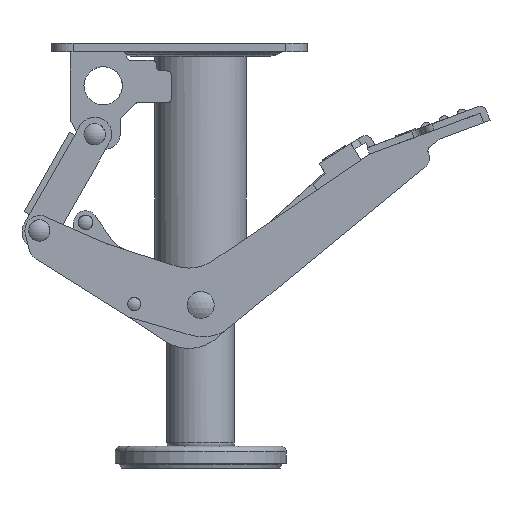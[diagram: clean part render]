
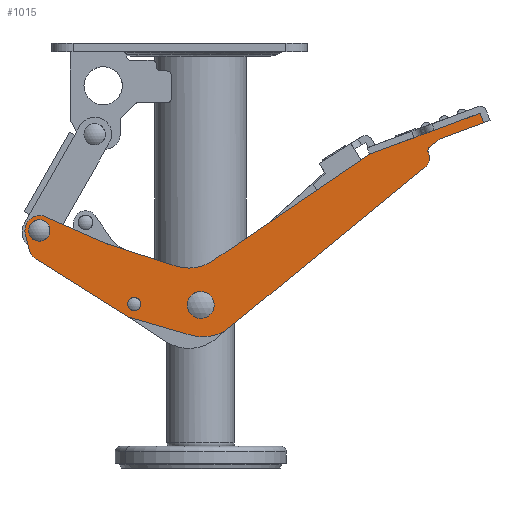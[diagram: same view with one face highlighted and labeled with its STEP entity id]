
A CAD part, left-side view. The second image highlights one B-rep face of the part: STEP entity #1015.
In plain terms, the highlighted planar face has unit normal (-1, 0, 0).
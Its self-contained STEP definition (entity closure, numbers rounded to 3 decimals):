
#1015 = ADVANCED_FACE( '', ( #2502 ), #2503, .T. );
#2502 = FACE_OUTER_BOUND( '', #5140, .T. );
#2503 = PLANE( '', #5141 );
#5140 = EDGE_LOOP( '', ( #10490, #10491, #10492, #10493, #10494, #10495, #10496, #10497, #10498, #10499, #10500, #10501, #10502, #10503, #10504, #10505, #10506, #10507, #10508, #10509 ) );
#5141 = AXIS2_PLACEMENT_3D( '', #10510, #10511, #10512 );
#10490 = ORIENTED_EDGE( '', *, *, #16000, .F. );
#10491 = ORIENTED_EDGE( '', *, *, #16001, .F. );
#10492 = ORIENTED_EDGE( '', *, *, #16002, .F. );
#10493 = ORIENTED_EDGE( '', *, *, #16003, .F. );
#10494 = ORIENTED_EDGE( '', *, *, #16004, .F. );
#10495 = ORIENTED_EDGE( '', *, *, #16005, .F. );
#10496 = ORIENTED_EDGE( '', *, *, #16006, .F. );
#10497 = ORIENTED_EDGE( '', *, *, #16007, .F. );
#10498 = ORIENTED_EDGE( '', *, *, #15962, .F. );
#10499 = ORIENTED_EDGE( '', *, *, #16008, .F. );
#10500 = ORIENTED_EDGE( '', *, *, #16009, .F. );
#10501 = ORIENTED_EDGE( '', *, *, #16010, .F. );
#10502 = ORIENTED_EDGE( '', *, *, #16011, .F. );
#10503 = ORIENTED_EDGE( '', *, *, #16012, .F. );
#10504 = ORIENTED_EDGE( '', *, *, #16013, .F. );
#10505 = ORIENTED_EDGE( '', *, *, #16014, .F. );
#10506 = ORIENTED_EDGE( '', *, *, #16015, .F. );
#10507 = ORIENTED_EDGE( '', *, *, #16016, .F. );
#10508 = ORIENTED_EDGE( '', *, *, #16017, .F. );
#10509 = ORIENTED_EDGE( '', *, *, #16018, .F. );
#10510 = CARTESIAN_POINT( '', ( -30.4, -191.13, -2.184 ) );
#10511 = DIRECTION( '', ( -1., 0., 0. ) );
#10512 = DIRECTION( '', ( 0., 1., 0.011 ) );
#15962 = EDGE_CURVE( '', #18525, #18527, #18528, .T. );
#16000 = EDGE_CURVE( '', #18588, #18589, #18590, .F. );
#16001 = EDGE_CURVE( '', #18591, #18588, #18592, .T. );
#16002 = EDGE_CURVE( '', #18593, #18591, #18594, .F. );
#16003 = EDGE_CURVE( '', #18595, #18593, #18596, .T. );
#16004 = EDGE_CURVE( '', #18597, #18595, #18598, .T. );
#16005 = EDGE_CURVE( '', #18599, #18597, #18600, .T. );
#16006 = EDGE_CURVE( '', #18601, #18599, #18602, .T. );
#16007 = EDGE_CURVE( '', #18527, #18601, #18603, .T. );
#16008 = EDGE_CURVE( '', #18604, #18525, #18605, .T. );
#16009 = EDGE_CURVE( '', #18606, #18604, #18607, .T. );
#16010 = EDGE_CURVE( '', #18608, #18606, #18609, .T. );
#16011 = EDGE_CURVE( '', #18610, #18608, #18611, .T. );
#16012 = EDGE_CURVE( '', #18612, #18610, #18613, .F. );
#16013 = EDGE_CURVE( '', #18614, #18612, #18615, .T. );
#16014 = EDGE_CURVE( '', #18616, #18614, #18617, .F. );
#16015 = EDGE_CURVE( '', #18618, #18616, #18619, .T. );
#16016 = EDGE_CURVE( '', #18620, #18618, #18621, .T. );
#16017 = EDGE_CURVE( '', #18622, #18620, #18623, .T. );
#16018 = EDGE_CURVE( '', #18589, #18622, #18624, .T. );
#18525 = VERTEX_POINT( '', #23311 );
#18527 = VERTEX_POINT( '', #23314 );
#18528 = CIRCLE( '', #23315, 7. );
#18588 = VERTEX_POINT( '', #23514 );
#18589 = VERTEX_POINT( '', #23515 );
#18590 = CIRCLE( '', #23516, 20. );
#18591 = VERTEX_POINT( '', #23517 );
#18592 = LINE( '', #23518, #23519 );
#18593 = VERTEX_POINT( '', #23520 );
#18594 = CIRCLE( '', #23521, 7. );
#18595 = VERTEX_POINT( '', #23522 );
#18596 = LINE( '', #23523, #23524 );
#18597 = VERTEX_POINT( '', #23525 );
#18598 = CIRCLE( '', #23526, 7. );
#18599 = VERTEX_POINT( '', #23527 );
#18600 = LINE( '', #23528, #23529 );
#18601 = VERTEX_POINT( '', #23530 );
#18602 = CIRCLE( '', #23531, 7. );
#18603 = LINE( '', #23532, #23533 );
#18604 = VERTEX_POINT( '', #23534 );
#18605 = LINE( '', #23535, #23536 );
#18606 = VERTEX_POINT( '', #23537 );
#18607 = CIRCLE( '', #23538, 20. );
#18608 = VERTEX_POINT( '', #23539 );
#18609 = LINE( '', #23540, #23541 );
#18610 = VERTEX_POINT( '', #23542 );
#18611 = CIRCLE( '', #23543, 6. );
#18612 = VERTEX_POINT( '', #23544 );
#18613 = CIRCLE( '', #23545, 2. );
#18614 = VERTEX_POINT( '', #23546 );
#18615 = LINE( '', #23547, #23548 );
#18616 = VERTEX_POINT( '', #23549 );
#18617 = CIRCLE( '', #23550, 6. );
#18618 = VERTEX_POINT( '', #23551 );
#18619 = LINE( '', #23552, #23553 );
#18620 = VERTEX_POINT( '', #23554 );
#18621 = LINE( '', #23555, #23556 );
#18622 = VERTEX_POINT( '', #23557 );
#18623 = LINE( '', #23558, #23559 );
#18624 = LINE( '', #23560, #23561 );
#23311 = CARTESIAN_POINT( '', ( -30.4, 33.217, -128.949 ) );
#23314 = CARTESIAN_POINT( '', ( -30.4, 35., -128.15 ) );
#23315 = AXIS2_PLACEMENT_3D( '', #31908, #31909, #31910 );
#23514 = CARTESIAN_POINT( '', ( -30.4, 11.605, -104.725 ) );
#23515 = CARTESIAN_POINT( '', ( -30.4, -5.758, -102.219 ) );
#23516 = AXIS2_PLACEMENT_3D( '', #31928, #31929, #31930 );
#23517 = CARTESIAN_POINT( '', ( -30.4, 43.433, -94.506 ) );
#23518 = CARTESIAN_POINT( '', ( -30.4, 11.605, -104.725 ) );
#23519 = VECTOR( '', #31931, 1000. );
#23520 = CARTESIAN_POINT( '', ( -30.4, 44.121, -94.245 ) );
#23521 = AXIS2_PLACEMENT_3D( '', #31932, #31933, #31934 );
#23522 = CARTESIAN_POINT( '', ( -30.4, 72.807, -81.582 ) );
#23523 = CARTESIAN_POINT( '', ( -30.4, 44.121, -94.245 ) );
#23524 = VECTOR( '', #31935, 1000. );
#23525 = CARTESIAN_POINT( '', ( -30.4, 82.417, -89.713 ) );
#23526 = AXIS2_PLACEMENT_3D( '', #31936, #31937, #31938 );
#23527 = CARTESIAN_POINT( '', ( -30.4, 80.49, -97.28 ) );
#23528 = CARTESIAN_POINT( '', ( -30.4, 82.417, -89.713 ) );
#23529 = VECTOR( '', #31939, 1000. );
#23530 = CARTESIAN_POINT( '', ( -30.4, 77.432, -101.479 ) );
#23531 = AXIS2_PLACEMENT_3D( '', #31940, #31941, #31942 );
#23532 = CARTESIAN_POINT( '', ( -30.4, 77.432, -101.479 ) );
#23533 = VECTOR( '', #31943, 1000. );
#23534 = CARTESIAN_POINT( '', ( -30.4, 4.543, -137.227 ) );
#23535 = CARTESIAN_POINT( '', ( -30.4, 33.217, -128.949 ) );
#23536 = VECTOR( '', #31944, 1000. );
#23537 = CARTESIAN_POINT( '', ( -30.4, -13.684, -133.479 ) );
#23538 = AXIS2_PLACEMENT_3D( '', #31945, #31946, #31947 );
#23539 = CARTESIAN_POINT( '', ( -30.4, -105.304, -58.375 ) );
#23540 = CARTESIAN_POINT( '', ( -30.4, -13.684, -133.479 ) );
#23541 = VECTOR( '', #31948, 1000. );
#23542 = CARTESIAN_POINT( '', ( -30.4, -106.984, -51.301 ) );
#23543 = AXIS2_PLACEMENT_3D( '', #31949, #31950, #31951 );
#23544 = CARTESIAN_POINT( '', ( -30.4, -107.544, -48.943 ) );
#23545 = AXIS2_PLACEMENT_3D( '', #31952, #31953, #31954 );
#23546 = CARTESIAN_POINT( '', ( -30.4, -111.513, -45.689 ) );
#23547 = CARTESIAN_POINT( '', ( -30.4, -107.544, -48.943 ) );
#23548 = VECTOR( '', #31955, 1000. );
#23549 = CARTESIAN_POINT( '', ( -30.4, -113.231, -44.703 ) );
#23550 = AXIS2_PLACEMENT_3D( '', #31956, #31957, #31958 );
#23551 = CARTESIAN_POINT( '', ( -30.4, -133., -37.374 ) );
#23552 = CARTESIAN_POINT( '', ( -30.4, -113.231, -44.703 ) );
#23553 = VECTOR( '', #31959, 1000. );
#23554 = CARTESIAN_POINT( '', ( -30.4, -131.331, -32.873 ) );
#23555 = CARTESIAN_POINT( '', ( -30.4, -133., -37.374 ) );
#23556 = VECTOR( '', #31960, 1000. );
#23557 = CARTESIAN_POINT( '', ( -30.4, -79.386, -52.132 ) );
#23558 = CARTESIAN_POINT( '', ( -30.4, -131.331, -32.873 ) );
#23559 = VECTOR( '', #31961, 1000. );
#23560 = CARTESIAN_POINT( '', ( -30.4, -79.386, -52.132 ) );
#23561 = VECTOR( '', #31962, 1000. );
#31908 = CARTESIAN_POINT( '', ( -30.4, 31.275, -122.223 ) );
#31909 = DIRECTION( '', ( 1., 0., 0. ) );
#31910 = DIRECTION( '', ( 0., 0., -1. ) );
#31928 = CARTESIAN_POINT( '', ( -30.4, 5.491, -85.682 ) );
#31929 = DIRECTION( '', ( 1., 0., 0. ) );
#31930 = DIRECTION( '', ( 0., 0., -1. ) );
#31931 = DIRECTION( '', ( 0., -0.952, -0.306 ) );
#31932 = CARTESIAN_POINT( '', ( -30.4, 41.294, -87.841 ) );
#31933 = DIRECTION( '', ( 1., 0., 0. ) );
#31934 = DIRECTION( '', ( 0., 0., -1. ) );
#31935 = DIRECTION( '', ( 0., -0.915, -0.404 ) );
#31936 = CARTESIAN_POINT( '', ( -30.4, 75.634, -87.985 ) );
#31937 = DIRECTION( '', ( 1., 0., 0. ) );
#31938 = DIRECTION( '', ( 0., 0., -1. ) );
#31939 = DIRECTION( '', ( 0., 0.247, 0.969 ) );
#31940 = CARTESIAN_POINT( '', ( -30.4, 73.707, -95.553 ) );
#31941 = DIRECTION( '', ( 1., 0., 0. ) );
#31942 = DIRECTION( '', ( 0., 0., -1. ) );
#31943 = DIRECTION( '', ( 0., 0.847, 0.532 ) );
#31944 = DIRECTION( '', ( 0., 0.961, 0.277 ) );
#31945 = CARTESIAN_POINT( '', ( -30.4, -1.005, -118.012 ) );
#31946 = DIRECTION( '', ( 1., 0., 0. ) );
#31947 = DIRECTION( '', ( 0., 0., -1. ) );
#31948 = DIRECTION( '', ( 0., 0.773, -0.634 ) );
#31949 = CARTESIAN_POINT( '', ( -30.4, -101.5, -53.735 ) );
#31950 = DIRECTION( '', ( 1., 0., 0. ) );
#31951 = DIRECTION( '', ( 0., 0., -1. ) );
#31952 = CARTESIAN_POINT( '', ( -30.4, -108.812, -50.489 ) );
#31953 = DIRECTION( '', ( 1., 0., 0. ) );
#31954 = DIRECTION( '', ( 0., 0., -1. ) );
#31955 = DIRECTION( '', ( 0., 0.773, -0.634 ) );
#31956 = CARTESIAN_POINT( '', ( -30.4, -115.317, -50.329 ) );
#31957 = DIRECTION( '', ( 1., 0., 0. ) );
#31958 = DIRECTION( '', ( 0., 0., -1. ) );
#31959 = DIRECTION( '', ( 0., 0.938, -0.348 ) );
#31960 = DIRECTION( '', ( 0., -0.348, -0.938 ) );
#31961 = DIRECTION( '', ( 0., -0.938, 0.348 ) );
#31962 = DIRECTION( '', ( 0., -0.827, 0.562 ) );
